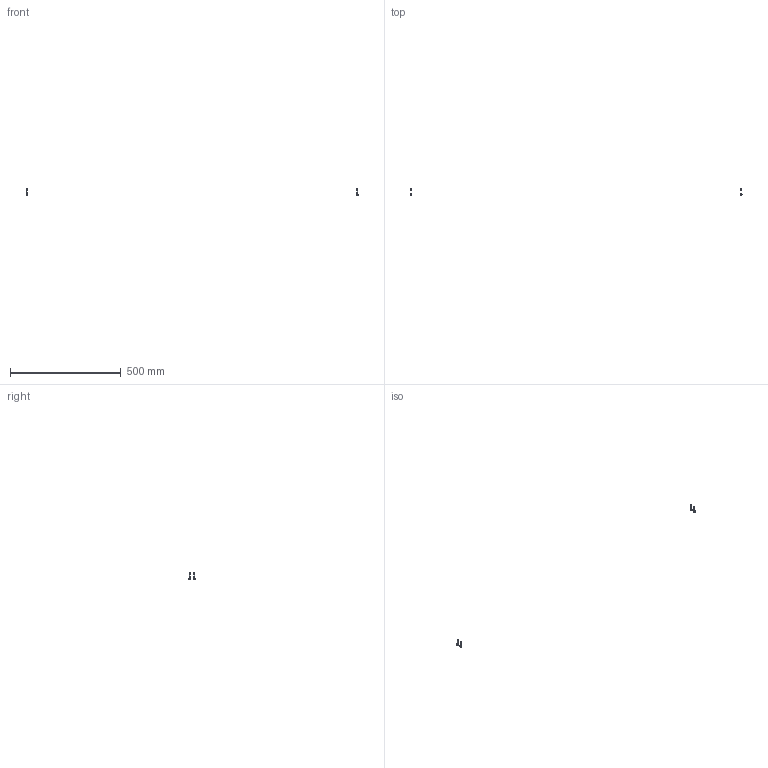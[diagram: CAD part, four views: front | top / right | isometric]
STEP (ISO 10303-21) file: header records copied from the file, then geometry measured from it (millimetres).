
FILE_DESCRIPTION(/* description */ (''),/* implementation_level */ '2;1');
FILE_NAME(/* name */ 'Y-4B8A~1',/* time_stamp */ '2014-02-14T19:38:03+01:00',/* author */ (''),/* organization */ (''),/* preprocessor_version */ 'ST-DEVELOPER v14',/* originating_system */ '',/* authorisation */ '');
FILE_SCHEMA (('AUTOMOTIVE_DESIGN'));
Length unit declared in the file: millimetre
Products named in the file (2): Document; screw DIN912-like, adhesive, M5x25
Assembly tree (2 placements, depth 2):
  Document
    screw DIN912-like, adhesive, M5x25  x2
Bounding box: 1498.49 x 28.5 x 30 mm (x, y, z)
Volume: 2936.8 mm3; surface area: 2644.6 mm2
Topology: 4 solids, 4 shells, 100 faces, 224 edges, 132 vertices
Faces by surface type: plane 60, bspline 40
Entity records: 4125 total; most frequent: CARTESIAN_POINT 1889, B_SPLINE_CURVE_WITH_KNOTS 378, ORIENTED_EDGE 324, PCURVE 324, DEFINITIONAL_REPRESENTATION 324, SURFACE_CURVE 162, EDGE_CURVE 162, VERTEX_POINT 99
